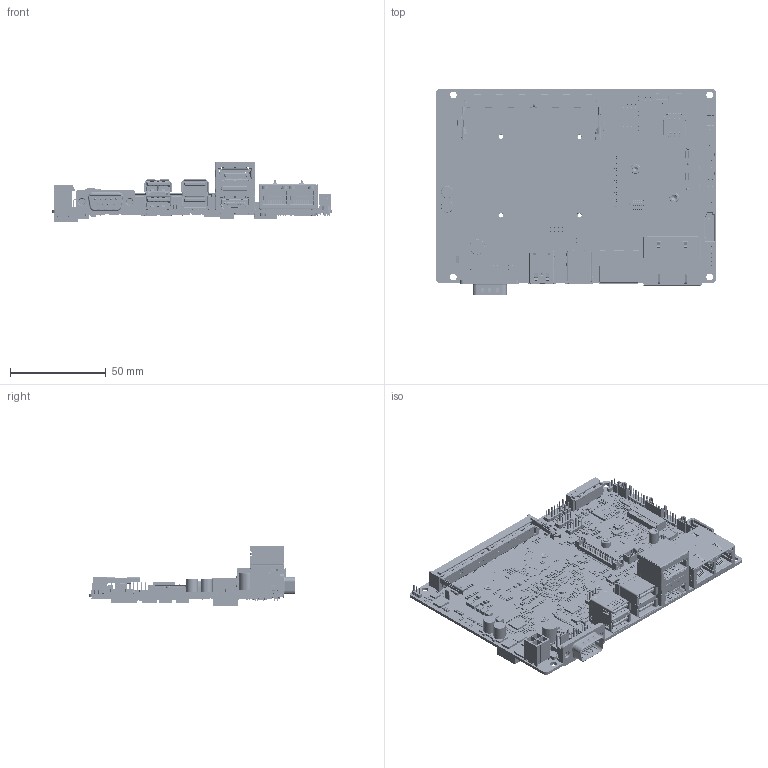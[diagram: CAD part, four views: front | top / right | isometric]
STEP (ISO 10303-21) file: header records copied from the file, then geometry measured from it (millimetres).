
FILE_DESCRIPTION((''),'2;1');
FILE_NAME('00_ECM-ASL_ASM','2025-04-14T14:17:52',('jamie_liao'),(''),'CREO PARAMETRIC BY PTC INC, 2024273','CREO PARAMETRIC BY PTC INC, 2024273','');
FILE_SCHEMA(('CONFIG_CONTROL_DESIGN'));
Products named in the file (120): ECM-ASL_M; E1660210201H; E1664410000R; E1672620202R; E1304400046H; E16C4070003R; A-FCC_H200; A-CE_H200; A-UKCA-L; E14S5900800H; E16F1439030H; E1315233310H; E14S3522300H; E14S3520900H; E1301581741H; E14S4955502H; E14S3156000H; E14S3156100H; E1183627724H; E1231302764H; E14S4751300H; E14S5910800H; E14S4120400H; E1314593410H; E1752511003H; E1613310000R; E1613620000R; E16135200K0R; E1662210201H; E1662510201H; E11274101A0H-M1; E118X633761H; E14S3215500H; E0030000000; EXXX; _XXX; E123133272AH; E10185005CXH-P1; A-R0603; E1752500003H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
Assembly tree (1876 placements, depth 2):
  00_ECM-ASL_ASM
    ECM-ASL_M
    E1660210201H
    E1664410000R
    E1672620202R
    E1304400046H
    E16C4070003R
    A-FCC_H200
    A-CE_H200
    A-UKCA-L
    E14S5900800H
    E16F1439030H
    E1315233310H
    E14S3522300H
    E14S3520900H
    E1301581741H  x2
    E14S4955502H
    E14S3156000H
    E14S3156100H
    E1183627724H  x2
    E1231302764H
    E14S4751300H
    E14S5910800H
    E14S4120400H
    E1314593410H
    E1752511003H  x2
    E1613310000R  x5
    E1613620000R  x2
    E16135200K0R  x3
    E1662210201H  x2
    E1662510201H
    E11274101A0H-M1  x32
    E118X633761H  x9
    E14S3215500H  x3
    E0030000000  x51
    EXXX  x4
    _XXX  x6
    E123133272AH
    E10185005CXH-P1
    A-R0603  x38
    E1752500003H
    E0030100000  x8
    0030000030  x2
    E0030100001  x7
    E121220222CH
    A-R0402  x760
    E1213103004H  x9
    E1212204721H
    E1212206827000H
    E121220102LH  x2
    E1213108003H  x7
    E1213101217H
    E1212201511H  x3
    E1212202212H
    E1213101510H  x6
    E1187668630H
    E1300031640H  x3
    E1305509445H
    E1301052040H  x7
    E1305032340H  x2
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Bounding box: 146.05 x 108 x 31.85 mm (x, y, z)
Volume: 49815.3 mm3; surface area: 103165.8 mm2
Topology: 1969 solids, 2239 shells, 48620 faces, 125738 edges, 82121 vertices
Faces by surface type: plane 39382, cylinder 8484, bspline 383, torus 155, extrusion 87, cone 76, sphere 35, revolution 18
Entity records: 1189486 total; most frequent: CARTESIAN_POINT 240055, ORIENTED_EDGE 200427, DIRECTION 188339, EDGE_CURVE 100342, VECTOR 81373, LINE 81286, VERTEX_POINT 65374, AXIS2_PLACEMENT_3D 53474
